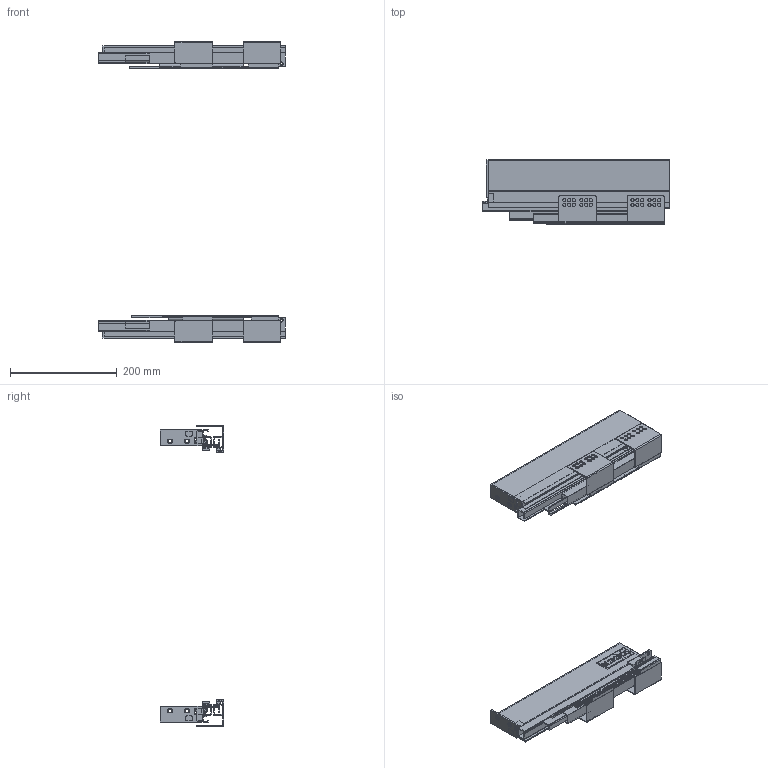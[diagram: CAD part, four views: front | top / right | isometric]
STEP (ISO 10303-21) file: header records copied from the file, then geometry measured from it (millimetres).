
FILE_DESCRIPTION(/* description */ (''),/* implementation_level */ '2;1');
FILE_NAME(/* name */ 'C:\Users\dmitruk\Documents\WORK\\X2\041D0410041F042004100412041B042F042E042904180415\X0\\SLIMBOX\SLIMBOX\SLIMBOX H90 L-350.stp',/* time_stamp */ '2022-04-19T17:17:50+03:00',/* author */ ('dmitruk'),/* organization */ ('AKS'),/* preprocessor_version */ 'ST-DEVELOPER v16.5',/* originating_system */ 'Autodesk Inventor 2017',/* authorisation */ '');
FILE_SCHEMA (('AUTOMOTIVE_DESIGN { 1 0 10303 214 3 1 1 }'));
Length unit declared in the file: millimetre
Products named in the file (12): SLIMBOX 90 мм правый; Боковина SLIMBOX _2; Направляющие \X2\0441043A
0440044B0442043E0433043E\X0\ монтажа \X2\043F
043E043B043D043E0433043E\X0\ \X2\0432044B04340432043804360435043D0438044F
\X0\ SLIMBOX-01; CR SLIMBOX-350; DR SLIMBOX; Крепление \X2\04440430
0441043004340430\X0\ SLIMBOX прав; CR SLIMBOX-500; DL SLIMBOX; Крепление \X2\04440430
0441043004340430\X0\ SLIMBOX лев; slim DW; Крепление к 
фасаду; Заглушка SLIMBOX
Assembly tree (14 placements, depth 3):
  SLIMBOX 90 мм правый
    Боковина SLIMBOX _2
    Направляющие \X2\0441043A
0440044B0442043E0433043E\X0\ монтажа \X2\043F
043E043B043D043E0433043E\X0\ \X2\0432044B04340432043804360435043D0438044F
\X0\ SLIMBOX-01
      CR SLIMBOX-350
      DR SLIMBOX
      slim DW  x2
      Крепление \X2\04440430
0441043004340430\X0\ SLIMBOX прав
      CR SLIMBOX-500
      DL SLIMBOX
      Крепление \X2\04440430
0441043004340430\X0\ SLIMBOX лев
    Крепление к 
фасаду  x2
    Заглушка SLIMBOX  x2
Bounding box: 350 x 119.5 x 564 mm (x, y, z)
Volume: 414909.9 mm3; surface area: 574505.9 mm2
Topology: 30 solids, 30 shells, 1315 faces, 3611 edges, 2411 vertices
Faces by surface type: plane 953, cylinder 346, cone 16
Full cylindrical faces by diameter (mm): 3 x2, 3.8 x4, 4 x4, 4.8 x4, 6 x48, 7.603 x4, 7.801 x2, 8.085 x2, 10.37 x2, 11 x4, 12.231 x2
Entity records: 34624 total; most frequent: CARTESIAN_POINT 5907, ORIENTED_EDGE 5710, DIRECTION 5611, EDGE_CURVE 2855, LINE 2321, VECTOR 2321, VERTEX_POINT 1941, AXIS2_PLACEMENT_3D 1645
